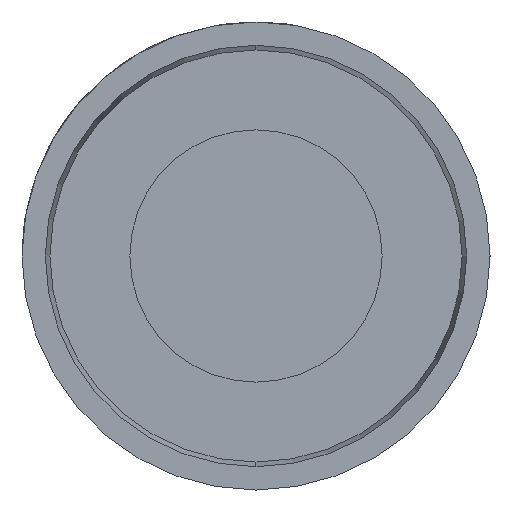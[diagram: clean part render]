
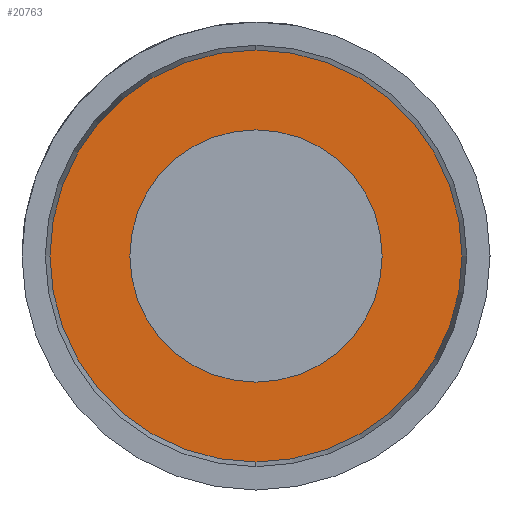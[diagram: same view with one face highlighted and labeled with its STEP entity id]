
A CAD part, left-side view. The second image highlights one B-rep face of the part: STEP entity #20763.
In plain terms, the highlighted planar face has unit normal (-1, 0, 0).
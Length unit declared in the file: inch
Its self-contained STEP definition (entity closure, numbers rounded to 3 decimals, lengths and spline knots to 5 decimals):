
#832 = CARTESIAN_POINT ( 'NONE',  ( 0., 0., -0.0505 ) ) ;
#1838 = CARTESIAN_POINT ( 'NONE',  ( 0., 0., 0.0825 ) ) ;
#2045 = EDGE_CURVE ( 'NONE', #17045, #17207, #19963, .T. ) ;
#2438 = AXIS2_PLACEMENT_3D ( 'NONE', #17740, #3178, #14211 ) ;
#3178 = DIRECTION ( 'NONE',  ( -1., 0., 0. ) ) ;
#4182 = DIRECTION ( 'NONE',  ( 0., 0., -1. ) ) ;
#4237 = CARTESIAN_POINT ( 'NONE',  ( 0., 0., 0.0505 ) ) ;
#4387 = CIRCLE ( 'NONE', #2438, 0.0505 ) ;
#6091 = DIRECTION ( 'NONE',  ( -1., 0., 0. ) ) ;
#6220 = EDGE_LOOP ( 'NONE', ( #18538, #22440 ) ) ;
#6292 = AXIS2_PLACEMENT_3D ( 'NONE', #10031, #17460, #8098 ) ;
#7582 = FACE_BOUND ( 'NONE', #6220, .T. ) ;
#7694 = CARTESIAN_POINT ( 'NONE',  ( 0., 0., 0. ) ) ;
#8098 = DIRECTION ( 'NONE',  ( 0., 0., 1. ) ) ;
#8320 = AXIS2_PLACEMENT_3D ( 'NONE', #9230, #8862, #16277 ) ;
#8862 = DIRECTION ( 'NONE',  ( -1., 0., 0. ) ) ;
#9105 = ORIENTED_EDGE ( 'NONE', *, *, #17149, .T. ) ;
#9230 = CARTESIAN_POINT ( 'NONE',  ( 0., 0., 0. ) ) ;
#9835 = DIRECTION ( 'NONE',  ( 0., 0., 1. ) ) ;
#10031 = CARTESIAN_POINT ( 'NONE',  ( 0., 0., 0. ) ) ;
#10456 = EDGE_CURVE ( 'NONE', #17207, #17045, #4387, .T. ) ;
#10648 = EDGE_CURVE ( 'NONE', #13102, #15146, #19114, .T. ) ;
#10868 = AXIS2_PLACEMENT_3D ( 'NONE', #7694, #18612, #4182 ) ;
#11338 = PLANE ( 'NONE',  #10868 ) ;
#12119 = EDGE_LOOP ( 'NONE', ( #9105, #21677 ) ) ;
#13102 = VERTEX_POINT ( 'NONE', #23316 ) ;
#14211 = DIRECTION ( 'NONE',  ( 0., 0., 1. ) ) ;
#15146 = VERTEX_POINT ( 'NONE', #1838 ) ;
#16277 = DIRECTION ( 'NONE',  ( 0., 0., 1. ) ) ;
#17045 = VERTEX_POINT ( 'NONE', #4237 ) ;
#17149 = EDGE_CURVE ( 'NONE', #15146, #13102, #20255, .T. ) ;
#17207 = VERTEX_POINT ( 'NONE', #832 ) ;
#17460 = DIRECTION ( 'NONE',  ( -1., 0., 0. ) ) ;
#17740 = CARTESIAN_POINT ( 'NONE',  ( 0., 0., 0. ) ) ;
#18538 = ORIENTED_EDGE ( 'NONE', *, *, #2045, .F. ) ;
#18612 = DIRECTION ( 'NONE',  ( 1., 0., 0. ) ) ;
#19114 = CIRCLE ( 'NONE', #22644, 0.0825 ) ;
#19963 = CIRCLE ( 'NONE', #8320, 0.0505 ) ;
#20255 = CIRCLE ( 'NONE', #6292, 0.0825 ) ;
#20345 = FACE_OUTER_BOUND ( 'NONE', #12119, .T. ) ;
#20763 = ADVANCED_FACE ( 'NONE', ( #7582, #20345 ), #11338, .F. ) ;
#21677 = ORIENTED_EDGE ( 'NONE', *, *, #10648, .T. ) ;
#22440 = ORIENTED_EDGE ( 'NONE', *, *, #10456, .F. ) ;
#22644 = AXIS2_PLACEMENT_3D ( 'NONE', #22746, #6091, #9835 ) ;
#22746 = CARTESIAN_POINT ( 'NONE',  ( 0., 0., 0. ) ) ;
#23316 = CARTESIAN_POINT ( 'NONE',  ( 0., 0., -0.0825 ) ) ;
